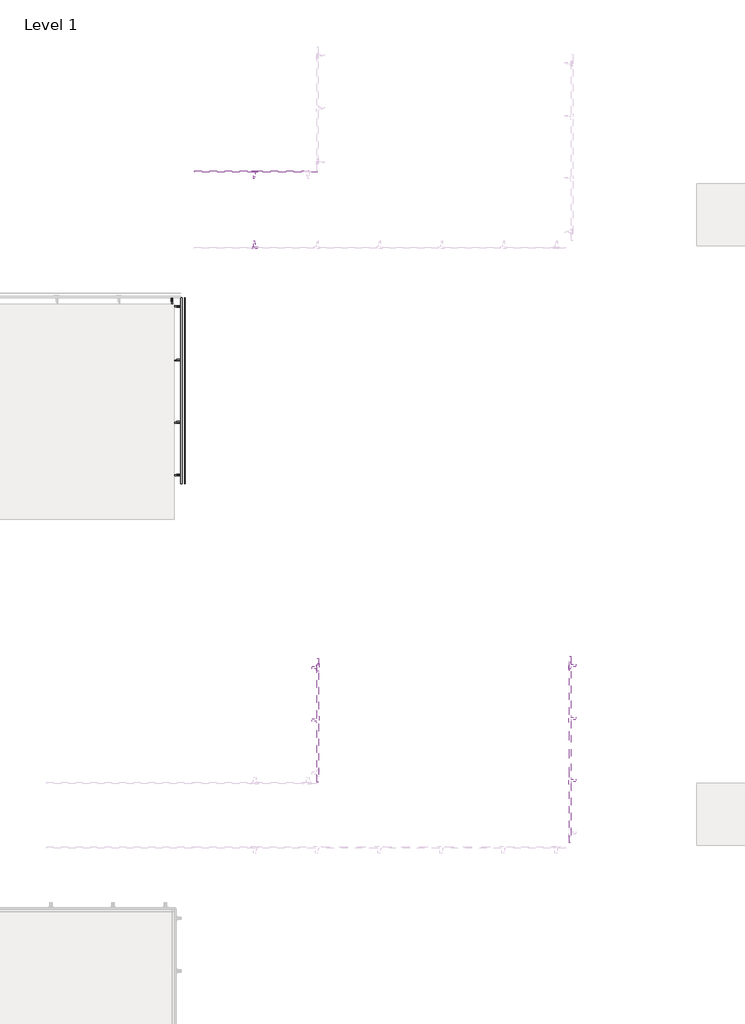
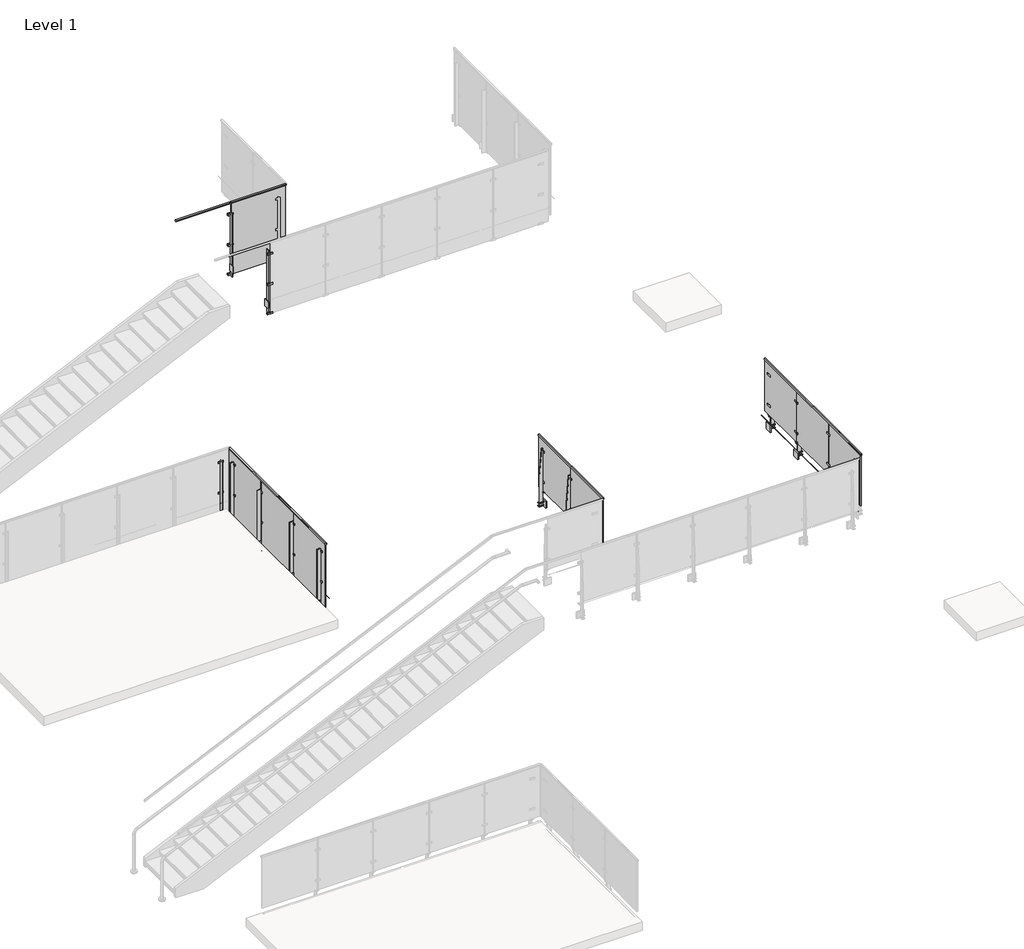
# One storey, part 20 of 37: 7 proxies, 4 railings.
"""IFC4 building model written with IfcOpenShell, lengths in millimetres."""

from ifc_helpers import new_model, si_unit, point, frame, frame_2d, origin, place, context, project, spatial, polyline, circle_curve, trimmed, segment, composite_curve, outline, extrude, faceted_brep, transform, mapped, element, save
from components import baluster_end_post_viva_solo_top_mount_260e03f1, baluster_end_post_viva_solo_top_mount_5ac118a2, baluster_end_post_viva_solo_top_mount_5a94812b, baluster_end_post_viva_solo_top_mount_22cecde8, baluster_end_post_viva_solo_top_mount_54df99a4, baluster_end_post_viva_solo_top_mount_d0627824

model = new_model("IFC4")

# Units and contexts
model_context = context("Model", 3, world=origin())
ifc_project = project(units=[si_unit("LENGTHUNIT", "METRE", prefix="MILLI")], contexts=[model_context])

# Site, building, storey
site = spatial("IfcSite", under=ifc_project)
building = spatial("IfcBuilding", under=site)
storey = spatial("IfcBuildingStorey", under=building, Name="Level 1", Elevation=0.0)

# Proxies
placement = place(None, origin())
baluster_end_post_viva_solo_top_mount_shape = baluster_end_post_viva_solo_top_mount_260e03f1(model_context)
element("IfcBuildingElementProxy", 1, Name="Baluster-End-Post-VIVA-SOLO-Top Mount : ANCHORED TO CONCRETE_FASCIA B1 MOUNT FOLD_STRAIGHT", ObjectType="Baluster-End-Post-VIVA-SOLO-Top Mount : ANCHORED TO CONCRETE_FASCIA B1 MOUNT FOLD_STRAIGHT", at=placement, inside=storey, context=model_context, shape_type="MappedRepresentation", body=[
    mapped(baluster_end_post_viva_solo_top_mount_shape, transform((-5355.7361996, 25883.3929275, 3047.492), x_axis=(0.0, -1.0, 0.0), y_axis=(1.0, 0.0, 0.0), z_axis=(0.0, 0.0, 1.0))),
])
baluster_end_post_viva_solo_top_mount_2_shape = baluster_end_post_viva_solo_top_mount_5ac118a2(model_context)
element("IfcBuildingElementProxy", 2, Name="Baluster-End-Post-VIVA-SOLO-Top Mount : ANCHORED TO CONCRETE_FASCIA A1 MOUNT FOLD_STRAIGHT", ObjectType="Baluster-End-Post-VIVA-SOLO-Top Mount : ANCHORED TO CONCRETE_FASCIA A1 MOUNT FOLD_STRAIGHT", at=placement, inside=storey, context=model_context, shape_type="MappedRepresentation", body=[
    mapped(baluster_end_post_viva_solo_top_mount_2_shape, transform((-7586.5523451, 31780.6274615, -0.508), x_axis=(0.0, -1.0, 0.0), y_axis=(1.0, 0.0, 0.0), z_axis=(0.0, 0.0, 1.0))),
])
baluster_end_post_viva_solo_top_mount_3_shape = baluster_end_post_viva_solo_top_mount_5a94812b(model_context)
element("IfcBuildingElementProxy", 3, Name="Baluster-End-Post-VIVA-SOLO-Top Mount : ANCHORED TO CONCRETE_FASCIA B1 MOUNT FOLD_STRAIGHT", ObjectType="Baluster-End-Post-VIVA-SOLO-Top Mount : ANCHORED TO CONCRETE_FASCIA B1 MOUNT FOLD_STRAIGHT", at=placement, inside=storey, context=model_context, shape_type="MappedRepresentation", body=[
    mapped(baluster_end_post_viva_solo_top_mount_3_shape, transform((-1336.4525648, 25913.7703161, 3047.492), x_axis=(0.0, 1.0, 0.0), y_axis=(-1.0, 0.0, 0.0), z_axis=(0.0, 0.0, 1.0))),
])
baluster_end_post_viva_solo_top_mount_4_shape = baluster_end_post_viva_solo_top_mount_22cecde8(model_context)
element("IfcBuildingElementProxy", 4, Name="Baluster-End-Post-VIVA-SOLO-Top Mount : ANCHORED TO CONCRETE_FASCIA A1 MOUNT FOLD_STRAIGHT", ObjectType="Baluster-End-Post-VIVA-SOLO-Top Mount : ANCHORED TO CONCRETE_FASCIA A1 MOUNT FOLD_STRAIGHT", at=placement, inside=storey, context=model_context, shape_type="MappedRepresentation", body=[
    mapped(baluster_end_post_viva_solo_top_mount_4_shape, transform((-7654.6116451, 31848.6867615, -0.508), x_axis=(1.0, 0.0, 0.0), y_axis=(0.0, 1.0, 0.0), z_axis=(0.0, 0.0, 1.0))),
])
element("IfcBuildingElementProxy", 5, Name="Baluster-End-Post-VIVA-SOLO-Top Mount : ANCHORED TO CONCRETE_FASCIA A1 MOUNT FOLD_STRAIGHT", ObjectType="Baluster-End-Post-VIVA-SOLO-Top Mount : ANCHORED TO CONCRETE_FASCIA A1 MOUNT FOLD_STRAIGHT", at=placement, inside=storey, context=model_context, shape_type="MappedRepresentation", body=[
    mapped(baluster_end_post_viva_solo_top_mount_4_shape, transform((-7586.5523451, 28732.6274615, -0.508), x_axis=(0.0, -1.0, 0.0), y_axis=(1.0, 0.0, 0.0), z_axis=(0.0, 0.0, 1.0))),
])
baluster_end_post_viva_solo_top_mount_5_shape = baluster_end_post_viva_solo_top_mount_54df99a4(model_context)
element("IfcBuildingElementProxy", 6, Name="Baluster-End-Post-VIVA-SOLO-Top Mount : ANCHORED TO CONCRETE_FASCIA A1 MOUNT FOLD_STRAIGHT", ObjectType="Baluster-End-Post-VIVA-SOLO-Top Mount : ANCHORED TO CONCRETE_FASCIA A1 MOUNT FOLD_STRAIGHT", at=placement, inside=storey, context=model_context, shape_type="MappedRepresentation", body=[
    mapped(baluster_end_post_viva_solo_top_mount_5_shape, transform((-6439.864819, 32538.5744132, 3047.492), x_axis=(-1.0, 0.0, 0.0), y_axis=(0.0, -1.0, 0.0), z_axis=(0.0, 0.0, 1.0))),
])
baluster_end_post_viva_solo_top_mount_6_shape = baluster_end_post_viva_solo_top_mount_d0627824(model_context)
element("IfcBuildingElementProxy", 7, Name="Baluster-End-Post-VIVA-SOLO-Top Mount : ANCHORED TO CONCRETE_FASCIA A1 MOUNT FOLD_STRAIGHT", ObjectType="Baluster-End-Post-VIVA-SOLO-Top Mount : ANCHORED TO CONCRETE_FASCIA A1 MOUNT FOLD_STRAIGHT", at=placement, inside=storey, context=model_context, shape_type="MappedRepresentation", body=[
    mapped(baluster_end_post_viva_solo_top_mount_6_shape, transform((-6439.864819, 33900.0689752, 3047.492), x_axis=(1.0, 0.0, 0.0), y_axis=(0.0, 1.0, 0.0), z_axis=(0.0, 0.0, 1.0))),
])

# Railings
element("IfcRailing", 8, ObjectType="VIVA-SOLO-Glass-Fascia Mount-Straight-A1", at=placement, inside=storey, context=model_context, shape_type="SweptSolid", body=[
    extrude(outline(composite_curve([segment(trimmed(circle_curve(frame_2d((-0.254, -7586.5523451)), 0.254), [point((-0.254, -7586.8063451))], [point((-0.254, -7586.2983451))], False, "CARTESIAN"), True, "CONTINUOUS"), segment(trimmed(circle_curve(frame_2d((-0.254, -7586.5523451)), 0.254), [point((-0.254, -7586.2983451))], [point((-0.254, -7586.8063451))], False, "CARTESIAN"), True, "CONTINUOUS")], self_intersect=False)), frame((0.0, 28732.6274615, 0.0), z_axis=(0.0, 1.0, 0.0), x_axis=(0.0, 0.0, 1.0)), (0.0, 0.0, 1.0), 3048.0),
    extrude(outline(composite_curve([segment(trimmed(circle_curve(frame_2d((-0.254, -7586.5523451)), 0.254), [point((-0.254, -7586.8063451))], [point((-0.254, -7586.2983451))], False, "CARTESIAN"), True, "CONTINUOUS"), segment(trimmed(circle_curve(frame_2d((-0.254, -7586.5523451)), 0.254), [point((-0.254, -7586.2983451))], [point((-0.254, -7586.8063451))], False, "CARTESIAN"), True, "CONTINUOUS")], self_intersect=False)), frame((0.0, 28732.6274615, 0.0), z_axis=(0.0, 1.0, 0.0), x_axis=(0.0, 0.0, 1.0)), (0.0, 0.0, 1.0), 3048.0),
    extrude(outline(polyline([(1079.5, -7654.4973451), (1054.1, -7654.4973451), (1054.1, -7649.7348451), (1074.7375, -7649.7348451), (1074.7375, -7637.0348451), (1054.1, -7637.0348451), (1054.1, -7632.2723451), (1079.5, -7632.2723451), (1079.5, -7654.4973451)])), frame((0.0, 28732.6274615, 0.0), z_axis=(0.0, 1.0, 0.0), x_axis=(0.0, 0.0, 1.0)), (0.0, 0.0, 1.0), 3048.0),
    extrude(outline(polyline([(-7637.0983451, 29735.5444149), (-7637.0983451, 28744.9444149), (-7649.7983451, 28744.9444149), (-7649.7983451, 29735.5444149), (-7637.0983451, 29735.5444149)])), frame((0.0, 0.0, -304.8), z_axis=(0.0, 0.0, 1.0), x_axis=(1.0, 0.0, 0.0)), (0.0, 0.0, 1.0), 1379.474),
    extrude(outline(polyline([(-7659.3233451, 29728.7837115), (-7759.3358451, 29728.7837115), (-7759.3358451, 29742.2774615), (-7659.3233451, 29742.2774615), (-7659.3233451, 29728.7837115)])), frame((0.0, 0.0, -215.9), z_axis=(0.0, 0.0, 1.0), x_axis=(1.0, 0.0, 0.0)), (0.0, 0.0, 1.0), 127.0),
    extrude(outline(polyline([(-7659.3233451, 29742.2774615), (-7722.8233451, 29742.2774615), (-7722.8233451, 29754.9774615), (-7659.3233451, 29754.9774615), (-7659.3233451, 29742.2774615)])), frame((0.0, 0.0, -310.8235954), z_axis=(0.0, 0.0, 1.0), x_axis=(1.0, 0.0, 0.0)), (0.0, 0.0, 1.0), 1204.9740667),
    extrude(outline(polyline([(-7649.7983451, 29793.0774615), (-7649.7983451, 29704.1774615), (-7659.3233451, 29704.1774615), (-7659.3233451, 29793.0774615), (-7649.7983451, 29793.0774615)])), frame((0.0, 0.0, -310.8550311), z_axis=(0.0, 0.0, 1.0), x_axis=(1.0, 0.0, 0.0)), (0.0, 0.0, 1.0), 31.75),
    extrude(outline(polyline([(-7627.5733451, 29793.0774615), (-7627.5733451, 29704.1774615), (-7637.0983451, 29704.1774615), (-7637.0983451, 29793.0774615), (-7627.5733451, 29793.0774615)])), frame((0.0, 0.0, -310.8550311), z_axis=(0.0, 0.0, 1.0), x_axis=(1.0, 0.0, 0.0)), (0.0, 0.0, 1.0), 31.75),
    extrude(outline(polyline([(-7649.7983451, 29793.0774615), (-7649.7983451, 29704.1774615), (-7659.3233451, 29704.1774615), (-7659.3233451, 29793.0774615), (-7649.7983451, 29793.0774615)])), frame((0.0, 0.0, 251.9910694), z_axis=(0.0, 0.0, 1.0), x_axis=(1.0, 0.0, 0.0)), (0.0, 0.0, 1.0), 31.75),
    extrude(outline(polyline([(-7649.7983451, 29793.0774615), (-7649.7983451, 29704.1774615), (-7659.3233451, 29704.1774615), (-7659.3233451, 29793.0774615), (-7649.7983451, 29793.0774615)])), frame((0.0, 0.0, 838.2992187), z_axis=(0.0, 0.0, 1.0), x_axis=(1.0, 0.0, 0.0)), (0.0, 0.0, 1.0), 31.75),
    extrude(outline(polyline([(-7627.5733451, 29793.0774615), (-7627.5733451, 29704.1774615), (-7637.0983451, 29704.1774615), (-7637.0983451, 29793.0774615), (-7627.5733451, 29793.0774615)])), frame((0.0, 0.0, 251.9910694), z_axis=(0.0, 0.0, 1.0), x_axis=(1.0, 0.0, 0.0)), (0.0, 0.0, 1.0), 31.75),
    extrude(outline(polyline([(-7627.5733451, 29793.0774615), (-7627.5733451, 29704.1774615), (-7637.0983451, 29704.1774615), (-7637.0983451, 29793.0774615), (-7627.5733451, 29793.0774615)])), frame((0.0, 0.0, 838.2992187), z_axis=(0.0, 0.0, 1.0), x_axis=(1.0, 0.0, 0.0)), (0.0, 0.0, 1.0), 31.75),
    extrude(outline(composite_curve([segment(trimmed(circle_curve(frame_2d((29748.6364226, -294.5829803)), 6.35), [point((29742.2864226, -294.5829803))], [point((29754.9864226, -294.5829803))], False, "CARTESIAN"), True, "CONTINUOUS"), segment(trimmed(circle_curve(frame_2d((29748.6364226, -294.5829803)), 6.35), [point((29754.9864226, -294.5829803))], [point((29742.2864226, -294.5829803))], False, "CARTESIAN"), True, "CONTINUOUS")], self_intersect=False)), frame((-7649.7983451, 0.0, 0.0), z_axis=(1.0, 0.0, 0.0), x_axis=(0.0, 1.0, 0.0)), (0.0, 0.0, 1.0), 12.7),
    extrude(outline(composite_curve([segment(trimmed(circle_curve(frame_2d((29748.6274615, 267.8660694)), 6.35), [point((29742.2774615, 267.8660694))], [point((29754.9774615, 267.8660694))], False, "CARTESIAN"), True, "CONTINUOUS"), segment(trimmed(circle_curve(frame_2d((29748.6274615, 267.8660694)), 6.35), [point((29754.9774615, 267.8660694))], [point((29742.2774615, 267.8660694))], False, "CARTESIAN"), True, "CONTINUOUS")], self_intersect=False)), frame((-7649.7983451, 0.0, 0.0), z_axis=(1.0, 0.0, 0.0), x_axis=(0.0, 1.0, 0.0)), (0.0, 0.0, 1.0), 12.7),
    extrude(outline(composite_curve([segment(trimmed(circle_curve(frame_2d((29748.6274615, 854.1742187)), 6.35), [point((29742.2774615, 854.1742187))], [point((29754.9774615, 854.1742187))], False, "CARTESIAN"), True, "CONTINUOUS"), segment(trimmed(circle_curve(frame_2d((29748.6274615, 854.1742187)), 6.35), [point((29754.9774615, 854.1742187))], [point((29742.2774615, 854.1742187))], False, "CARTESIAN"), True, "CONTINUOUS")], self_intersect=False)), frame((-7649.7983451, 0.0, 0.0), z_axis=(1.0, 0.0, 0.0), x_axis=(0.0, 1.0, 0.0)), (0.0, 0.0, 1.0), 12.7),
    extrude(outline(polyline([(-7637.0983451, 30751.5444149), (-7637.0983451, 29760.9444149), (-7649.7983451, 29760.9444149), (-7649.7983451, 30751.5444149), (-7637.0983451, 30751.5444149)])), frame((0.0, 0.0, -304.8), z_axis=(0.0, 0.0, 1.0), x_axis=(1.0, 0.0, 0.0)), (0.0, 0.0, 1.0), 1379.474),
    extrude(outline(polyline([(-7659.3233451, 30744.7837115), (-7759.3358451, 30744.7837115), (-7759.3358451, 30758.2774615), (-7659.3233451, 30758.2774615), (-7659.3233451, 30744.7837115)])), frame((0.0, 0.0, -215.9), z_axis=(0.0, 0.0, 1.0), x_axis=(1.0, 0.0, 0.0)), (0.0, 0.0, 1.0), 127.0),
    extrude(outline(polyline([(-7659.3233451, 30758.2774615), (-7722.8233451, 30758.2774615), (-7722.8233451, 30770.9774615), (-7659.3233451, 30770.9774615), (-7659.3233451, 30758.2774615)])), frame((0.0, 0.0, -310.8235954), z_axis=(0.0, 0.0, 1.0), x_axis=(1.0, 0.0, 0.0)), (0.0, 0.0, 1.0), 1204.9740667),
    extrude(outline(polyline([(-7649.7983451, 30809.0774615), (-7649.7983451, 30720.1774615), (-7659.3233451, 30720.1774615), (-7659.3233451, 30809.0774615), (-7649.7983451, 30809.0774615)])), frame((0.0, 0.0, -310.8550311), z_axis=(0.0, 0.0, 1.0), x_axis=(1.0, 0.0, 0.0)), (0.0, 0.0, 1.0), 31.75),
    extrude(outline(polyline([(-7627.5733451, 30809.0774615), (-7627.5733451, 30720.1774615), (-7637.0983451, 30720.1774615), (-7637.0983451, 30809.0774615), (-7627.5733451, 30809.0774615)])), frame((0.0, 0.0, -310.8550311), z_axis=(0.0, 0.0, 1.0), x_axis=(1.0, 0.0, 0.0)), (0.0, 0.0, 1.0), 31.75),
    extrude(outline(polyline([(-7649.7983451, 30809.0774615), (-7649.7983451, 30720.1774615), (-7659.3233451, 30720.1774615), (-7659.3233451, 30809.0774615), (-7649.7983451, 30809.0774615)])), frame((0.0, 0.0, 251.9910694), z_axis=(0.0, 0.0, 1.0), x_axis=(1.0, 0.0, 0.0)), (0.0, 0.0, 1.0), 31.75),
    extrude(outline(polyline([(-7649.7983451, 30809.0774615), (-7649.7983451, 30720.1774615), (-7659.3233451, 30720.1774615), (-7659.3233451, 30809.0774615), (-7649.7983451, 30809.0774615)])), frame((0.0, 0.0, 838.2992187), z_axis=(0.0, 0.0, 1.0), x_axis=(1.0, 0.0, 0.0)), (0.0, 0.0, 1.0), 31.75),
    extrude(outline(polyline([(-7627.5733451, 30809.0774615), (-7627.5733451, 30720.1774615), (-7637.0983451, 30720.1774615), (-7637.0983451, 30809.0774615), (-7627.5733451, 30809.0774615)])), frame((0.0, 0.0, 251.9910694), z_axis=(0.0, 0.0, 1.0), x_axis=(1.0, 0.0, 0.0)), (0.0, 0.0, 1.0), 31.75),
    extrude(outline(polyline([(-7627.5733451, 30809.0774615), (-7627.5733451, 30720.1774615), (-7637.0983451, 30720.1774615), (-7637.0983451, 30809.0774615), (-7627.5733451, 30809.0774615)])), frame((0.0, 0.0, 838.2992187), z_axis=(0.0, 0.0, 1.0), x_axis=(1.0, 0.0, 0.0)), (0.0, 0.0, 1.0), 31.75),
    extrude(outline(composite_curve([segment(trimmed(circle_curve(frame_2d((30764.6364226, -294.5829803)), 6.35), [point((30758.2864226, -294.5829803))], [point((30770.9864226, -294.5829803))], False, "CARTESIAN"), True, "CONTINUOUS"), segment(trimmed(circle_curve(frame_2d((30764.6364226, -294.5829803)), 6.35), [point((30770.9864226, -294.5829803))], [point((30758.2864226, -294.5829803))], False, "CARTESIAN"), True, "CONTINUOUS")], self_intersect=False)), frame((-7649.7983451, 0.0, 0.0), z_axis=(1.0, 0.0, 0.0), x_axis=(0.0, 1.0, 0.0)), (0.0, 0.0, 1.0), 12.7),
    extrude(outline(composite_curve([segment(trimmed(circle_curve(frame_2d((30764.6274615, 267.8660694)), 6.35), [point((30758.2774615, 267.8660694))], [point((30770.9774615, 267.8660694))], False, "CARTESIAN"), True, "CONTINUOUS"), segment(trimmed(circle_curve(frame_2d((30764.6274615, 267.8660694)), 6.35), [point((30770.9774615, 267.8660694))], [point((30758.2774615, 267.8660694))], False, "CARTESIAN"), True, "CONTINUOUS")], self_intersect=False)), frame((-7649.7983451, 0.0, 0.0), z_axis=(1.0, 0.0, 0.0), x_axis=(0.0, 1.0, 0.0)), (0.0, 0.0, 1.0), 12.7),
    extrude(outline(composite_curve([segment(trimmed(circle_curve(frame_2d((30764.6274615, 854.1742187)), 6.35), [point((30758.2774615, 854.1742187))], [point((30770.9774615, 854.1742187))], False, "CARTESIAN"), True, "CONTINUOUS"), segment(trimmed(circle_curve(frame_2d((30764.6274615, 854.1742187)), 6.35), [point((30770.9774615, 854.1742187))], [point((30758.2774615, 854.1742187))], False, "CARTESIAN"), True, "CONTINUOUS")], self_intersect=False)), frame((-7649.7983451, 0.0, 0.0), z_axis=(1.0, 0.0, 0.0), x_axis=(0.0, 1.0, 0.0)), (0.0, 0.0, 1.0), 12.7),
    extrude(outline(polyline([(-7637.0983451, 31767.5444149), (-7637.0983451, 30776.9444149), (-7649.7983451, 30776.9444149), (-7649.7983451, 31767.5444149), (-7637.0983451, 31767.5444149)])), frame((0.0, 0.0, -304.8), z_axis=(0.0, 0.0, 1.0), x_axis=(1.0, 0.0, 0.0)), (0.0, 0.0, 1.0), 1379.474),
])
element("IfcRailing", 9, ObjectType="VIVA-SOLO-Glass-Fascia Mount-Straight-A1", at=placement, inside=storey, context=model_context, shape_type="SolidModel", body=[
    extrude(outline(composite_curve([segment(trimmed(circle_curve(frame_2d((33900.0689752, 3047.746)), 0.254), [point((33899.8149752, 3047.746))], [point((33900.3229752, 3047.746))], False, "CARTESIAN"), True, "CONTINUOUS"), segment(trimmed(circle_curve(frame_2d((33900.0689752, 3047.746)), 0.254), [point((33900.3229752, 3047.746))], [point((33899.8149752, 3047.746))], False, "CARTESIAN"), True, "CONTINUOUS")], self_intersect=False)), frame((-6439.864819, 0.0, 0.0), z_axis=(1.0, 0.0, 0.0), x_axis=(0.0, 1.0, 0.0)), (0.0, 0.0, 1.0), 1016.0),
    extrude(outline(composite_curve([segment(trimmed(circle_curve(frame_2d((33900.0689752, 3047.746)), 0.254), [point((33899.8149752, 3047.746))], [point((33900.3229752, 3047.746))], False, "CARTESIAN"), True, "CONTINUOUS"), segment(trimmed(circle_curve(frame_2d((33900.0689752, 3047.746)), 0.254), [point((33900.3229752, 3047.746))], [point((33899.8149752, 3047.746))], False, "CARTESIAN"), True, "CONTINUOUS")], self_intersect=False)), frame((-6439.864819, 0.0, 0.0), z_axis=(1.0, 0.0, 0.0), x_axis=(0.0, 1.0, 0.0)), (0.0, 0.0, 1.0), 1016.0),
    faceted_brep([(-5423.864819, 33832.1239752, 4127.5), (-5423.864819, 33832.1239752, 4102.1), (-5423.864819, 33836.8864752, 4102.1), (-5423.864819, 33836.8864752, 4122.7375), (-5423.864819, 33849.5864752, 4122.7375), (-5423.864819, 33849.5864752, 4102.1), (-5423.864819, 33854.3489752, 4102.1), (-5423.864819, 33854.3489752, 4127.5), (-6439.864819, 33854.3489752, 4127.5), (-6439.864819, 33832.1239752, 4127.5), (-6439.864819, 33854.3489752, 4102.1), (-6439.864819, 33849.5864752, 4102.1), (-6439.864819, 33849.5864752, 4122.7375), (-6439.864819, 33836.8864752, 4122.7375), (-6439.864819, 33836.8864752, 4102.1), (-6439.864819, 33832.1239752, 4102.1), (-7430.9985127, 33832.1239752, 4127.5), (-7430.9985127, 33854.3489752, 4127.5), (-7430.9985127, 33854.3489752, 4102.1), (-7430.9985127, 33849.5864752, 4102.1), (-7430.9985127, 33849.5864752, 4122.7375), (-7430.9985127, 33836.8864752, 4122.7375), (-7430.9985127, 33836.8864752, 4102.1), (-7430.9985127, 33832.1239752, 4102.1)], [[[0, 1, 2, 3, 4, 5, 6, 7]], [[8, 9, 0, 7]], [[10, 8, 7, 6]], [[11, 10, 6, 5]], [[12, 11, 5, 4]], [[13, 12, 4, 3]], [[14, 13, 3, 2]], [[15, 14, 2, 1]], [[9, 15, 1, 0]], [[16, 17, 18, 19, 20, 21, 22, 23]], [[17, 16, 9, 8]], [[18, 17, 8, 10]], [[19, 18, 10, 11]], [[20, 19, 11, 12]], [[21, 20, 12, 13]], [[22, 21, 13, 14]], [[23, 22, 14, 15]], [[16, 23, 15, 9]]]),
    extrude(outline(polyline([(-6426.7817724, 33849.5229752), (-5436.1817724, 33849.5229752), (-5436.1817724, 33836.8229752), (-6426.7817724, 33836.8229752), (-6426.7817724, 33849.5229752)])), frame((0.0, 0.0, 2743.2), z_axis=(0.0, 0.0, 1.0), x_axis=(1.0, 0.0, 0.0)), (0.0, 0.0, 1.0), 1379.474),
])
element("IfcRailing", 10, ObjectType="VIVA-SOLO-Glass-Fascia Mount-Straight-B1", at=placement, inside=storey, context=model_context, shape_type="SweptSolid", body=[
    extrude(outline(composite_curve([segment(trimmed(circle_curve(frame_2d((3047.746, -1336.4525648)), 0.254), [point((3047.746, -1336.1985648))], [point((3047.746, -1336.7065648))], False, "CARTESIAN"), True, "CONTINUOUS"), segment(trimmed(circle_curve(frame_2d((3047.746, -1336.4525648)), 0.254), [point((3047.746, -1336.7065648))], [point((3047.746, -1336.1985648))], False, "CARTESIAN"), True, "CONTINUOUS")], self_intersect=False)), frame((0.0, 22865.7703161, 0.0), z_axis=(0.0, 1.0, 0.0), x_axis=(0.0, 0.0, 1.0)), (0.0, 0.0, 1.0), 3048.0),
    extrude(outline(composite_curve([segment(trimmed(circle_curve(frame_2d((3047.746, -1336.4525648)), 0.254), [point((3047.746, -1336.1985648))], [point((3047.746, -1336.7065648))], False, "CARTESIAN"), True, "CONTINUOUS"), segment(trimmed(circle_curve(frame_2d((3047.746, -1336.4525648)), 0.254), [point((3047.746, -1336.7065648))], [point((3047.746, -1336.1985648))], False, "CARTESIAN"), True, "CONTINUOUS")], self_intersect=False)), frame((0.0, 22865.7703161, 0.0), z_axis=(0.0, 1.0, 0.0), x_axis=(0.0, 0.0, 1.0)), (0.0, 0.0, 1.0), 3048.0),
    extrude(outline(polyline([(4127.5, -1268.5075648), (4127.5, -1290.7325648), (4102.1, -1290.7325648), (4102.1, -1285.9700648), (4122.7375, -1285.9700648), (4122.7375, -1273.2700648), (4102.1, -1273.2700648), (4102.1, -1268.5075648), (4127.5, -1268.5075648)])), frame((0.0, 22865.7703161, 0.0), z_axis=(0.0, 1.0, 0.0), x_axis=(0.0, 0.0, 1.0)), (0.0, 0.0, 1.0), 3048.0),
    extrude(outline(polyline([(-1285.9065648, 24910.8533627), (-1285.9065648, 25901.4533627), (-1273.2065648, 25901.4533627), (-1273.2065648, 24910.8533627), (-1285.9065648, 24910.8533627)])), frame((0.0, 0.0, 3124.2), z_axis=(0.0, 0.0, 1.0), x_axis=(1.0, 0.0, 0.0)), (0.0, 0.0, 1.0), 998.474),
    extrude(outline(polyline([(3962.4, -1263.6815648), (2863.85, -1263.6815648), (2863.85, -1200.1815648), (3429.0, -1200.1815648), (3962.4, -1238.2815648), (3962.4, -1263.6815648)])), frame((0.0, 24891.4203161, 0.0), z_axis=(0.0, 1.0, 0.0), x_axis=(0.0, 0.0, 1.0)), (0.0, 0.0, 1.0), 12.7),
    extrude(outline(polyline([(-1279.5565648, 24917.6140661), (-1185.8940648, 24917.6140661), (-1185.8940648, 24877.9265661), (-1279.5565648, 24877.9265661), (-1279.5565648, 24917.6140661)])), frame((0.0, 0.0, 2919.4125), z_axis=(0.0, 0.0, 1.0), x_axis=(1.0, 0.0, 0.0)), (0.0, 0.0, 1.0), 12.7),
    extrude(outline(polyline([(-1279.5565648, 24917.6140661), (-1185.8940648, 24917.6140661), (-1185.8940648, 24877.9265661), (-1279.5565648, 24877.9265661), (-1279.5565648, 24917.6140661)])), frame((0.0, 0.0, 2859.0875), z_axis=(0.0, 0.0, 1.0), x_axis=(1.0, 0.0, 0.0)), (0.0, 0.0, 1.0), 12.7),
    extrude(outline(polyline([(-1273.2065648, 24853.3203161), (-1273.2065648, 24942.2203161), (-1263.6815648, 24942.2203161), (-1263.6815648, 24853.3203161), (-1273.2065648, 24853.3203161)])), frame((0.0, 0.0, 3299.9910694), z_axis=(0.0, 0.0, 1.0), x_axis=(1.0, 0.0, 0.0)), (0.0, 0.0, 1.0), 31.75),
    extrude(outline(polyline([(-1273.2065648, 24853.3203161), (-1273.2065648, 24942.2203161), (-1263.6815648, 24942.2203161), (-1263.6815648, 24853.3203161), (-1273.2065648, 24853.3203161)])), frame((0.0, 0.0, 3886.2992187), z_axis=(0.0, 0.0, 1.0), x_axis=(1.0, 0.0, 0.0)), (0.0, 0.0, 1.0), 31.75),
    extrude(outline(polyline([(-1295.4315648, 24853.3203161), (-1295.4315648, 24942.2203161), (-1285.9065648, 24942.2203161), (-1285.9065648, 24853.3203161), (-1295.4315648, 24853.3203161)])), frame((0.0, 0.0, 3299.9910694), z_axis=(0.0, 0.0, 1.0), x_axis=(1.0, 0.0, 0.0)), (0.0, 0.0, 1.0), 31.75),
    extrude(outline(polyline([(-1295.4315648, 24853.3203161), (-1295.4315648, 24942.2203161), (-1285.9065648, 24942.2203161), (-1285.9065648, 24853.3203161), (-1295.4315648, 24853.3203161)])), frame((0.0, 0.0, 3886.2992187), z_axis=(0.0, 0.0, 1.0), x_axis=(1.0, 0.0, 0.0)), (0.0, 0.0, 1.0), 31.75),
    extrude(outline(polyline([(24942.2203161, 3124.2), (24942.2203161, 3117.85), (24897.7703161, 3095.9353513), (24853.3203161, 3117.85), (24853.3203161, 3124.2), (24942.2203161, 3124.2)])), frame((-1285.9065648, 0.0, 0.0), z_axis=(1.0, 0.0, 0.0), x_axis=(0.0, 1.0, 0.0)), (0.0, 0.0, 1.0), 12.7),
    extrude(outline(polyline([(-1300.1940648, 24834.2703161), (-1300.1940648, 24961.2703161), (-1279.5565648, 24961.2703161), (-1279.5565648, 24834.2703161), (-1300.1940648, 24834.2703161)])), frame((0.0, 0.0, 2832.1), z_axis=(0.0, 0.0, 1.0), x_axis=(1.0, 0.0, 0.0)), (0.0, 0.0, 1.0), 127.0),
    extrude(outline(composite_curve([segment(trimmed(circle_curve(frame_2d((24897.7703161, 3315.8660694)), 6.35), [point((24904.1203161, 3315.8660694))], [point((24891.4203161, 3315.8660694))], False, "CARTESIAN"), True, "CONTINUOUS"), segment(trimmed(circle_curve(frame_2d((24897.7703161, 3315.8660694)), 6.35), [point((24891.4203161, 3315.8660694))], [point((24904.1203161, 3315.8660694))], False, "CARTESIAN"), True, "CONTINUOUS")], self_intersect=False)), frame((-1285.9065648, 0.0, 0.0), z_axis=(1.0, 0.0, 0.0), x_axis=(0.0, 1.0, 0.0)), (0.0, 0.0, 1.0), 12.7),
    extrude(outline(composite_curve([segment(trimmed(circle_curve(frame_2d((24897.7703161, 3902.1742187)), 6.35), [point((24904.1203161, 3902.1742187))], [point((24891.4203161, 3902.1742187))], False, "CARTESIAN"), True, "CONTINUOUS"), segment(trimmed(circle_curve(frame_2d((24897.7703161, 3902.1742187)), 6.35), [point((24891.4203161, 3902.1742187))], [point((24904.1203161, 3902.1742187))], False, "CARTESIAN"), True, "CONTINUOUS")], self_intersect=False)), frame((-1285.9065648, 0.0, 0.0), z_axis=(1.0, 0.0, 0.0), x_axis=(0.0, 1.0, 0.0)), (0.0, 0.0, 1.0), 12.7),
    extrude(outline(composite_curve([segment(trimmed(circle_curve(frame_2d((24897.7703161, 3108.325)), 11.1125), [point((24908.8828161, 3108.325))], [point((24886.6578161, 3108.325))], False, "CARTESIAN"), True, "CONTINUOUS"), segment(trimmed(circle_curve(frame_2d((24897.7703161, 3108.325)), 11.1125), [point((24886.6578161, 3108.325))], [point((24908.8828161, 3108.325))], False, "CARTESIAN"), True, "CONTINUOUS")], self_intersect=False)), frame((-1289.0815648, 0.0, 0.0), z_axis=(1.0, 0.0, 0.0), x_axis=(0.0, 1.0, 0.0)), (0.0, 0.0, 1.0), 25.4),
    extrude(outline(polyline([(-1285.9065648, 23894.8533627), (-1285.9065648, 24885.4533627), (-1273.2065648, 24885.4533627), (-1273.2065648, 23894.8533627), (-1285.9065648, 23894.8533627)])), frame((0.0, 0.0, 3124.2), z_axis=(0.0, 0.0, 1.0), x_axis=(1.0, 0.0, 0.0)), (0.0, 0.0, 1.0), 998.474),
    extrude(outline(polyline([(3962.4, -1263.6815648), (2863.85, -1263.6815648), (2863.85, -1200.1815648), (3429.0, -1200.1815648), (3962.4, -1238.2815648), (3962.4, -1263.6815648)])), frame((0.0, 23875.4203161, 0.0), z_axis=(0.0, 1.0, 0.0), x_axis=(0.0, 0.0, 1.0)), (0.0, 0.0, 1.0), 12.7),
    extrude(outline(polyline([(-1279.5565648, 23901.6140661), (-1185.8940648, 23901.6140661), (-1185.8940648, 23861.9265661), (-1279.5565648, 23861.9265661), (-1279.5565648, 23901.6140661)])), frame((0.0, 0.0, 2919.4125), z_axis=(0.0, 0.0, 1.0), x_axis=(1.0, 0.0, 0.0)), (0.0, 0.0, 1.0), 12.7),
    extrude(outline(polyline([(-1279.5565648, 23901.6140661), (-1185.8940648, 23901.6140661), (-1185.8940648, 23861.9265661), (-1279.5565648, 23861.9265661), (-1279.5565648, 23901.6140661)])), frame((0.0, 0.0, 2859.0875), z_axis=(0.0, 0.0, 1.0), x_axis=(1.0, 0.0, 0.0)), (0.0, 0.0, 1.0), 12.7),
    extrude(outline(polyline([(-1273.2065648, 23837.3203161), (-1273.2065648, 23926.2203161), (-1263.6815648, 23926.2203161), (-1263.6815648, 23837.3203161), (-1273.2065648, 23837.3203161)])), frame((0.0, 0.0, 3299.9910694), z_axis=(0.0, 0.0, 1.0), x_axis=(1.0, 0.0, 0.0)), (0.0, 0.0, 1.0), 31.75),
    extrude(outline(polyline([(-1273.2065648, 23837.3203161), (-1273.2065648, 23926.2203161), (-1263.6815648, 23926.2203161), (-1263.6815648, 23837.3203161), (-1273.2065648, 23837.3203161)])), frame((0.0, 0.0, 3886.2992187), z_axis=(0.0, 0.0, 1.0), x_axis=(1.0, 0.0, 0.0)), (0.0, 0.0, 1.0), 31.75),
    extrude(outline(polyline([(-1295.4315648, 23837.3203161), (-1295.4315648, 23926.2203161), (-1285.9065648, 23926.2203161), (-1285.9065648, 23837.3203161), (-1295.4315648, 23837.3203161)])), frame((0.0, 0.0, 3299.9910694), z_axis=(0.0, 0.0, 1.0), x_axis=(1.0, 0.0, 0.0)), (0.0, 0.0, 1.0), 31.75),
    extrude(outline(polyline([(-1295.4315648, 23837.3203161), (-1295.4315648, 23926.2203161), (-1285.9065648, 23926.2203161), (-1285.9065648, 23837.3203161), (-1295.4315648, 23837.3203161)])), frame((0.0, 0.0, 3886.2992187), z_axis=(0.0, 0.0, 1.0), x_axis=(1.0, 0.0, 0.0)), (0.0, 0.0, 1.0), 31.75),
    extrude(outline(polyline([(23926.2203161, 3124.2), (23926.2203161, 3117.85), (23881.7703161, 3095.9353513), (23837.3203161, 3117.85), (23837.3203161, 3124.2), (23926.2203161, 3124.2)])), frame((-1285.9065648, 0.0, 0.0), z_axis=(1.0, 0.0, 0.0), x_axis=(0.0, 1.0, 0.0)), (0.0, 0.0, 1.0), 12.7),
    extrude(outline(polyline([(-1300.1940648, 23818.2703161), (-1300.1940648, 23945.2703161), (-1279.5565648, 23945.2703161), (-1279.5565648, 23818.2703161), (-1300.1940648, 23818.2703161)])), frame((0.0, 0.0, 2832.1), z_axis=(0.0, 0.0, 1.0), x_axis=(1.0, 0.0, 0.0)), (0.0, 0.0, 1.0), 127.0),
    extrude(outline(composite_curve([segment(trimmed(circle_curve(frame_2d((23881.7703161, 3315.8660694)), 6.35), [point((23888.1203161, 3315.8660694))], [point((23875.4203161, 3315.8660694))], False, "CARTESIAN"), True, "CONTINUOUS"), segment(trimmed(circle_curve(frame_2d((23881.7703161, 3315.8660694)), 6.35), [point((23875.4203161, 3315.8660694))], [point((23888.1203161, 3315.8660694))], False, "CARTESIAN"), True, "CONTINUOUS")], self_intersect=False)), frame((-1285.9065648, 0.0, 0.0), z_axis=(1.0, 0.0, 0.0), x_axis=(0.0, 1.0, 0.0)), (0.0, 0.0, 1.0), 12.7),
    extrude(outline(composite_curve([segment(trimmed(circle_curve(frame_2d((23881.7703161, 3902.1742187)), 6.35), [point((23888.1203161, 3902.1742187))], [point((23875.4203161, 3902.1742187))], False, "CARTESIAN"), True, "CONTINUOUS"), segment(trimmed(circle_curve(frame_2d((23881.7703161, 3902.1742187)), 6.35), [point((23875.4203161, 3902.1742187))], [point((23888.1203161, 3902.1742187))], False, "CARTESIAN"), True, "CONTINUOUS")], self_intersect=False)), frame((-1285.9065648, 0.0, 0.0), z_axis=(1.0, 0.0, 0.0), x_axis=(0.0, 1.0, 0.0)), (0.0, 0.0, 1.0), 12.7),
    extrude(outline(composite_curve([segment(trimmed(circle_curve(frame_2d((23881.7703161, 3108.325)), 11.1125), [point((23892.8828161, 3108.325))], [point((23870.6578161, 3108.325))], False, "CARTESIAN"), True, "CONTINUOUS"), segment(trimmed(circle_curve(frame_2d((23881.7703161, 3108.325)), 11.1125), [point((23870.6578161, 3108.325))], [point((23892.8828161, 3108.325))], False, "CARTESIAN"), True, "CONTINUOUS")], self_intersect=False)), frame((-1289.0815648, 0.0, 0.0), z_axis=(1.0, 0.0, 0.0), x_axis=(0.0, 1.0, 0.0)), (0.0, 0.0, 1.0), 25.4),
    extrude(outline(polyline([(-1285.9065648, 22878.8533627), (-1285.9065648, 23869.4533627), (-1273.2065648, 23869.4533627), (-1273.2065648, 22878.8533627), (-1285.9065648, 22878.8533627)])), frame((0.0, 0.0, 3124.2), z_axis=(0.0, 0.0, 1.0), x_axis=(1.0, 0.0, 0.0)), (0.0, 0.0, 1.0), 998.474),
])
element("IfcRailing", 11, ObjectType="VIVA-SOLO-Glass-Fascia Mount-Straight-B1", at=placement, inside=storey, context=model_context, shape_type="SweptSolid", body=[
    extrude(outline(composite_curve([segment(trimmed(circle_curve(frame_2d((3047.746, -5355.7361996)), 0.254), [point((3047.746, -5355.4821996))], [point((3047.746, -5355.9901996))], False, "CARTESIAN"), True, "CONTINUOUS"), segment(trimmed(circle_curve(frame_2d((3047.746, -5355.7361996)), 0.254), [point((3047.746, -5355.9901996))], [point((3047.746, -5355.4821996))], False, "CARTESIAN"), True, "CONTINUOUS")], self_intersect=False)), frame((0.0, 23851.3929275, 0.0), z_axis=(0.0, 1.0, 0.0), x_axis=(0.0, 0.0, 1.0)), (0.0, 0.0, 1.0), 2032.0),
    extrude(outline(composite_curve([segment(trimmed(circle_curve(frame_2d((3047.746, -5355.7361996)), 0.254), [point((3047.746, -5355.4821996))], [point((3047.746, -5355.9901996))], False, "CARTESIAN"), True, "CONTINUOUS"), segment(trimmed(circle_curve(frame_2d((3047.746, -5355.7361996)), 0.254), [point((3047.746, -5355.9901996))], [point((3047.746, -5355.4821996))], False, "CARTESIAN"), True, "CONTINUOUS")], self_intersect=False)), frame((0.0, 23851.3929275, 0.0), z_axis=(0.0, 1.0, 0.0), x_axis=(0.0, 0.0, 1.0)), (0.0, 0.0, 1.0), 2032.0),
    extrude(outline(polyline([(4127.5, -5401.4561996), (4127.5, -5423.6811996), (4102.1, -5423.6811996), (4102.1, -5418.9186996), (4122.7375, -5418.9186996), (4122.7375, -5406.2186996), (4102.1, -5406.2186996), (4102.1, -5401.4561996), (4127.5, -5401.4561996)])), frame((0.0, 23851.3929275, 0.0), z_axis=(0.0, 1.0, 0.0), x_axis=(0.0, 0.0, 1.0)), (0.0, 0.0, 1.0), 2032.0),
    extrude(outline(polyline([(-5406.2821996, 24880.4759741), (-5418.9821996, 24880.4759741), (-5418.9821996, 25871.0759741), (-5406.2821996, 25871.0759741), (-5406.2821996, 24880.4759741)])), frame((0.0, 0.0, 3124.2), z_axis=(0.0, 0.0, 1.0), x_axis=(1.0, 0.0, 0.0)), (0.0, 0.0, 1.0), 998.474),
    extrude(outline(polyline([(3962.4, -5428.5071996), (3962.4, -5453.9071996), (3429.0, -5492.0071996), (2863.85, -5492.0071996), (2863.85, -5428.5071996), (3962.4, -5428.5071996)])), frame((0.0, 24861.0429275, 0.0), z_axis=(0.0, 1.0, 0.0), x_axis=(0.0, 0.0, 1.0)), (0.0, 0.0, 1.0), 12.7),
    extrude(outline(polyline([(-5412.6321996, 24887.2366775), (-5412.6321996, 24847.5491775), (-5506.2946996, 24847.5491775), (-5506.2946996, 24887.2366775), (-5412.6321996, 24887.2366775)])), frame((0.0, 0.0, 2919.4125), z_axis=(0.0, 0.0, 1.0), x_axis=(1.0, 0.0, 0.0)), (0.0, 0.0, 1.0), 12.7),
    extrude(outline(polyline([(-5412.6321996, 24887.2366775), (-5412.6321996, 24847.5491775), (-5506.2946996, 24847.5491775), (-5506.2946996, 24887.2366775), (-5412.6321996, 24887.2366775)])), frame((0.0, 0.0, 2859.0875), z_axis=(0.0, 0.0, 1.0), x_axis=(1.0, 0.0, 0.0)), (0.0, 0.0, 1.0), 12.7),
    extrude(outline(polyline([(-5418.9821996, 24822.9429275), (-5428.5071996, 24822.9429275), (-5428.5071996, 24911.8429275), (-5418.9821996, 24911.8429275), (-5418.9821996, 24822.9429275)])), frame((0.0, 0.0, 3299.9910694), z_axis=(0.0, 0.0, 1.0), x_axis=(1.0, 0.0, 0.0)), (0.0, 0.0, 1.0), 31.75),
    extrude(outline(polyline([(-5418.9821996, 24822.9429275), (-5428.5071996, 24822.9429275), (-5428.5071996, 24911.8429275), (-5418.9821996, 24911.8429275), (-5418.9821996, 24822.9429275)])), frame((0.0, 0.0, 3886.2992187), z_axis=(0.0, 0.0, 1.0), x_axis=(1.0, 0.0, 0.0)), (0.0, 0.0, 1.0), 31.75),
    extrude(outline(polyline([(-5396.7571996, 24822.9429275), (-5406.2821996, 24822.9429275), (-5406.2821996, 24911.8429275), (-5396.7571996, 24911.8429275), (-5396.7571996, 24822.9429275)])), frame((0.0, 0.0, 3299.9910694), z_axis=(0.0, 0.0, 1.0), x_axis=(1.0, 0.0, 0.0)), (0.0, 0.0, 1.0), 31.75),
    extrude(outline(polyline([(-5396.7571996, 24822.9429275), (-5406.2821996, 24822.9429275), (-5406.2821996, 24911.8429275), (-5396.7571996, 24911.8429275), (-5396.7571996, 24822.9429275)])), frame((0.0, 0.0, 3886.2992187), z_axis=(0.0, 0.0, 1.0), x_axis=(1.0, 0.0, 0.0)), (0.0, 0.0, 1.0), 31.75),
    extrude(outline(polyline([(24911.8429275, 3124.2), (24911.8429275, 3117.85), (24867.3929275, 3095.9353513), (24822.9429275, 3117.85), (24822.9429275, 3124.2), (24911.8429275, 3124.2)])), frame((-5418.9821996, 0.0, 0.0), z_axis=(1.0, 0.0, 0.0), x_axis=(0.0, 1.0, 0.0)), (0.0, 0.0, 1.0), 12.7),
    extrude(outline(polyline([(-5391.9946996, 24803.8929275), (-5412.6321996, 24803.8929275), (-5412.6321996, 24930.8929275), (-5391.9946996, 24930.8929275), (-5391.9946996, 24803.8929275)])), frame((0.0, 0.0, 2832.1), z_axis=(0.0, 0.0, 1.0), x_axis=(1.0, 0.0, 0.0)), (0.0, 0.0, 1.0), 127.0),
    extrude(outline(composite_curve([segment(trimmed(circle_curve(frame_2d((24867.3929275, 3315.8660694)), 6.35), [point((24873.7429275, 3315.8660694))], [point((24861.0429275, 3315.8660694))], False, "CARTESIAN"), True, "CONTINUOUS"), segment(trimmed(circle_curve(frame_2d((24867.3929275, 3315.8660694)), 6.35), [point((24861.0429275, 3315.8660694))], [point((24873.7429275, 3315.8660694))], False, "CARTESIAN"), True, "CONTINUOUS")], self_intersect=False)), frame((-5418.9821996, 0.0, 0.0), z_axis=(1.0, 0.0, 0.0), x_axis=(0.0, 1.0, 0.0)), (0.0, 0.0, 1.0), 12.7),
    extrude(outline(composite_curve([segment(trimmed(circle_curve(frame_2d((24867.3929275, 3902.1742187)), 6.35), [point((24873.7429275, 3902.1742187))], [point((24861.0429275, 3902.1742187))], False, "CARTESIAN"), True, "CONTINUOUS"), segment(trimmed(circle_curve(frame_2d((24867.3929275, 3902.1742187)), 6.35), [point((24861.0429275, 3902.1742187))], [point((24873.7429275, 3902.1742187))], False, "CARTESIAN"), True, "CONTINUOUS")], self_intersect=False)), frame((-5418.9821996, 0.0, 0.0), z_axis=(1.0, 0.0, 0.0), x_axis=(0.0, 1.0, 0.0)), (0.0, 0.0, 1.0), 12.7),
    extrude(outline(composite_curve([segment(trimmed(circle_curve(frame_2d((24867.3929275, 3108.325)), 11.1125), [point((24878.5054275, 3108.325))], [point((24856.2804275, 3108.325))], False, "CARTESIAN"), True, "CONTINUOUS"), segment(trimmed(circle_curve(frame_2d((24867.3929275, 3108.325)), 11.1125), [point((24856.2804275, 3108.325))], [point((24878.5054275, 3108.325))], False, "CARTESIAN"), True, "CONTINUOUS")], self_intersect=False)), frame((-5428.5071996, 0.0, 0.0), z_axis=(1.0, 0.0, 0.0), x_axis=(0.0, 1.0, 0.0)), (0.0, 0.0, 1.0), 25.4),
    extrude(outline(polyline([(-5406.2821996, 23864.4759741), (-5418.9821996, 23864.4759741), (-5418.9821996, 24855.0759741), (-5406.2821996, 24855.0759741), (-5406.2821996, 23864.4759741)])), frame((0.0, 0.0, 3124.2), z_axis=(0.0, 0.0, 1.0), x_axis=(1.0, 0.0, 0.0)), (0.0, 0.0, 1.0), 998.474),
])

save(model, "model.ifc")
